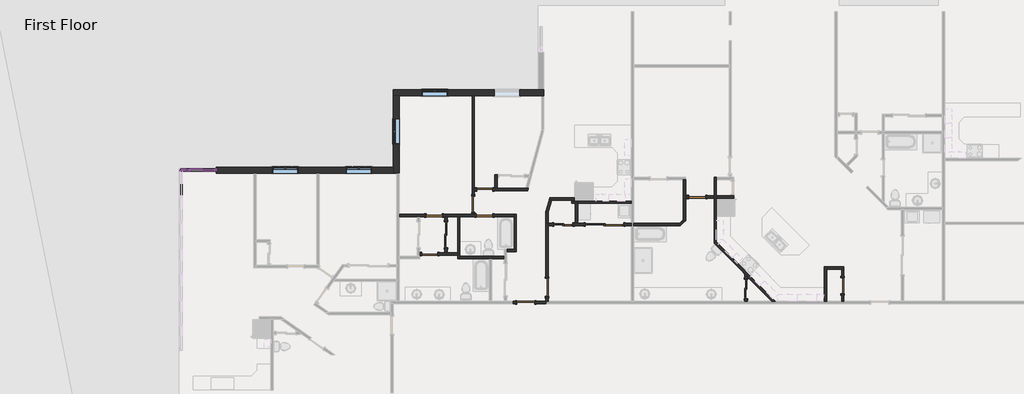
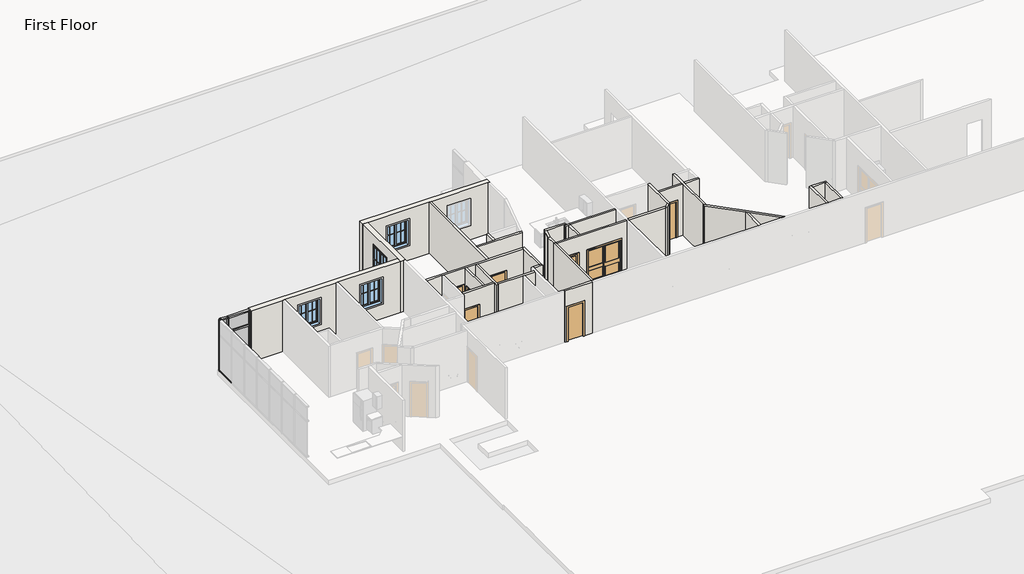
# One storey, part 8 of 17: 33 walls, 15 members, 13 doors, 4 plates, 4 windows.
"""IFC4 building model written with IfcOpenShell, lengths in millimetres."""

from ifc_helpers import new_model, si_unit, frame, origin, origin_with_axes, place, context, project, spatial, polyline, outline, extrude, faceted_brep, transform, mapped, element, save
from components import door_d8f5dbb5, door_f2b275c1, door_d141acb4, door_825b8444, door_c29894e6, door_88c23cd7, door_900f836f, door_caaf2a11, rectangular_mullion_rectangular_mullion_1_fa3625a1, rectangular_mullion_rectangular_mullion_1_7cbf0b94, rectangular_mullion_rectangular_mullion_1_6186cc23, rectangular_mullion_rectangular_mullion_1_049a2e78, rectangular_mullion_rectangular_mullion_1_a50b3cda, rectangular_mullion_rectangular_mullion_1_5cd4c5ac, rectangular_mullion_rectangular_mullion_1_64aff199, rectangular_mullion_rectangular_mullion_1_b6c962ab, system_panel_glazed_0ed27d1d, system_panel_glazed_134bacdb, system_panel_glazed_a3383988, system_panel_glazed_d9a092fd, window_33528cc2

model = new_model("IFC4")

# Units and contexts
model_context = context("Model", 3, world=origin())
ifc_project = project(units=[si_unit("LENGTHUNIT", "METRE", prefix="MILLI")], contexts=[model_context])

# Site, building, storey
site = spatial("IfcSite", under=ifc_project)
building = spatial("IfcBuilding", under=site)
storey = spatial("IfcBuildingStorey", under=building, Name="First Floor", Elevation=0.0)

# Doors
placement = place(None, origin())
door_shape = door_d8f5dbb5(model_context)
element("IfcDoor", 1, ObjectType="Single-Flush : 30\" x 80\"", at=placement, inside=storey, context=model_context, shape_type="MappedRepresentation", body=[
    mapped(door_shape, transform((12409.9063982, 4588.2091714, 0.0), x_axis=(-1.0, 0.0, 0.0), y_axis=(0.0, -1.0, 0.0), z_axis=(0.0, 0.0, 1.0))),
])
element("IfcDoor", 2, ObjectType="Single-Flush : 30\" x 80\"", at=placement, inside=storey, context=model_context, shape_type="MappedRepresentation", body=[
    mapped(door_shape, transform((31977.0076897, 3089.6091714, 0.0), x_axis=(0.0, -1.0, 0.0), y_axis=(1.0, 0.0, 0.0), z_axis=(0.0, 0.0, 1.0))),
])
door_2_shape = door_f2b275c1(model_context)
element("IfcDoor", 3, ObjectType="Single-Flush : 30\" x 80\"", at=placement, inside=storey, context=model_context, shape_type="MappedRepresentation", body=[
    mapped(door_2_shape, transform((15004.9379006, 7654.5108545, 0.0), x_axis=(-1.0, 0.0, 0.0), y_axis=(0.0, -1.0, 0.0), z_axis=(0.0, 0.0, 1.0))),
])
element("IfcDoor", 4, ObjectType="Single-Flush : 30\" x 80\"", at=placement, inside=storey, context=model_context, shape_type="MappedRepresentation", body=[
    mapped(door_2_shape, transform((14468.0674417, 6956.8936958, 0.0), x_axis=(0.0, -1.0, 0.0), y_axis=(1.0, 0.0, 0.0), z_axis=(0.0, 0.0, 1.0))),
])
element("IfcDoor", 5, ObjectType="Single-Flush : 30\" x 80\"", at=placement, inside=storey, context=model_context, shape_type="MappedRepresentation", body=[
    mapped(door_2_shape, transform((12612.1535557, 6423.4936958, 0.0), x_axis=(1.0, 0.0, 0.0), y_axis=(0.0, 1.0, 0.0), z_axis=(0.0, 0.0, 1.0))),
])
element("IfcDoor", 6, ObjectType="Single-Flush : 30\" x 80\"", at=placement, inside=storey, context=model_context, shape_type="MappedRepresentation", body=[
    mapped(door_2_shape, transform((15001.4674417, 6423.4936958, 0.0), x_axis=(1.0, 0.0, 0.0), y_axis=(0.0, 1.0, 0.0), z_axis=(0.0, 0.0, 1.0))),
])
door_3_shape = door_d141acb4(model_context)
element("IfcDoor", 7, ObjectType="Single-Flush : 32\" x 84\"", at=placement, inside=storey, context=model_context, shape_type="MappedRepresentation", body=[
    mapped(door_3_shape, transform((25078.7830518, 7300.7074244, 0.0), x_axis=(-1.0, 0.0, 0.0), y_axis=(0.0, -1.0, 0.0), z_axis=(0.0, 0.0, 1.0))),
])
door_4_shape = door_825b8444(model_context)
element("IfcDoor", 8, ObjectType="Single-Flush : 34\" x 80\"", at=placement, inside=storey, context=model_context, shape_type="MappedRepresentation", body=[
    mapped(door_4_shape, transform((16954.6993195, 2302.2091714, 0.0), x_axis=(-1.0, 0.0, 0.0), y_axis=(0.0, -1.0, 0.0), z_axis=(0.0, 0.0, 1.0))),
])
door_5_shape = door_c29894e6(model_context)
element("IfcDoor", 9, ObjectType="Single-Flush : 34\" x 80\"", at=placement, inside=storey, context=model_context, shape_type="MappedRepresentation", body=[
    mapped(door_5_shape, transform((17970.6993195, 3013.4091714, 0.0), x_axis=(0.0, -1.0, 0.0), y_axis=(1.0, 0.0, 0.0), z_axis=(0.0, 0.0, 1.0))),
])
door_6_shape = door_88c23cd7(model_context)
element("IfcDoor", 10, ObjectType="Sliding-Closet : 36\" x 80\"", at=placement, inside=storey, context=model_context, shape_type="MappedRepresentation", body=[
    mapped(door_6_shape, transform((18737.6267988, 6113.0380642, 0.0), x_axis=(-1.0, 0.0, 0.0), y_axis=(0.0, -1.0, 0.0), z_axis=(0.0, 0.0, 1.0))),
])
element("IfcDoor", 11, ObjectType="Sliding-Closet : 36\" x 80\"", at=placement, inside=storey, context=model_context, shape_type="MappedRepresentation", body=[
    mapped(door_6_shape, transform((27511.15388, 2937.2091714, 0.0), x_axis=(0.0, 1.0, 0.0), y_axis=(-1.0, 0.0, 0.0), z_axis=(0.0, 0.0, 1.0))),
])
door_7_shape = door_900f836f(model_context)
element("IfcDoor", 12, ObjectType="Sliding-Closet : 48\" x 80\"", at=placement, inside=storey, context=model_context, shape_type="MappedRepresentation", body=[
    mapped(door_7_shape, transform((13297.9535557, 5505.8514336, 0.0), x_axis=(0.0, 1.0, 0.0), y_axis=(-1.0, 0.0, 0.0), z_axis=(0.0, 0.0, 1.0))),
])
door_8_shape = door_caaf2a11(model_context)
element("IfcDoor", 13, ObjectType="Sliding-Closet : 72\" x 80\"", at=placement, inside=storey, context=model_context, shape_type="MappedRepresentation", body=[
    mapped(door_8_shape, transform((20687.6058176, 6113.0380642, 0.0), x_axis=(-1.0, 0.0, 0.0), y_axis=(0.0, -1.0, 0.0), z_axis=(0.0, 0.0, 1.0))),
])

# Members
rectangular_mullion_rectangular_mullion_1_shape = rectangular_mullion_rectangular_mullion_1_fa3625a1(model_context)
element("IfcMember", 14, ObjectType="Rectangular Mullion : Rectangular Mullion 1", at=placement, inside=storey, context=model_context, shape_type="MappedRepresentation", body=[
    mapped(rectangular_mullion_rectangular_mullion_1_shape, transform((1069.5831156, 8571.3427849, 3048.0), x_axis=(0.0, 0.0, 1.0), y_axis=(0.0, 1.0, 0.0), z_axis=(-1.0, 0.0, 0.0))),
])
element("IfcMember", 15, ObjectType="Rectangular Mullion : Rectangular Mullion 1", at=placement, inside=storey, context=model_context, shape_type="MappedRepresentation", body=[
    mapped(rectangular_mullion_rectangular_mullion_1_shape, transform((2225.2831159, 8571.3427849, 0.0), x_axis=(0.0, 0.0, -1.0), y_axis=(0.0, 1.0, 0.0), z_axis=(1.0, 0.0, 0.0))),
])
element("IfcMember", 16, ObjectType="Rectangular Mullion : Rectangular Mullion 1", at=placement, inside=storey, context=model_context, shape_type="MappedRepresentation", body=[
    mapped(rectangular_mullion_rectangular_mullion_1_shape, transform((612.3831159, 8507.8427849, 0.0), x_axis=(0.0, 0.0, -1.0), y_axis=(-1.0, 0.0, 0.0), z_axis=(0.0, 1.0, 0.0))),
])
rectangular_mullion_rectangular_mullion_1_2_shape = rectangular_mullion_rectangular_mullion_1_7cbf0b94(model_context)
element("IfcMember", 17, ObjectType="Rectangular Mullion : Rectangular Mullion 1", at=placement, inside=storey, context=model_context, shape_type="MappedRepresentation", body=[
    mapped(rectangular_mullion_rectangular_mullion_1_2_shape, transform((1069.5831156, 8571.3427849, 2165.35), x_axis=(0.0, 0.0, 1.0), y_axis=(0.0, 1.0, 0.0), z_axis=(-1.0, 0.0, 0.0))),
])
rectangular_mullion_rectangular_mullion_1_3_shape = rectangular_mullion_rectangular_mullion_1_6186cc23(model_context)
element("IfcMember", 18, ObjectType="Rectangular Mullion : Rectangular Mullion 1", at=placement, inside=storey, context=model_context, shape_type="MappedRepresentation", body=[
    mapped(rectangular_mullion_rectangular_mullion_1_3_shape, transform((1037.8331156, 8571.3427849, 0.0), x_axis=(-1.0, 0.0, 0.0), y_axis=(0.0, 1.0, 0.0), z_axis=(0.0, 0.0, -1.0))),
])
rectangular_mullion_rectangular_mullion_1_4_shape = rectangular_mullion_rectangular_mullion_1_049a2e78(model_context)
element("IfcMember", 19, ObjectType="Rectangular Mullion : Rectangular Mullion 1", at=placement, inside=storey, context=model_context, shape_type="MappedRepresentation", body=[
    mapped(rectangular_mullion_rectangular_mullion_1_4_shape, transform((1037.8331156, 8571.3427849, 2165.35), x_axis=(-1.0, 0.0, 0.0), y_axis=(0.0, 1.0, 0.0), z_axis=(0.0, 0.0, -1.0))),
])
rectangular_mullion_rectangular_mullion_1_5_shape = rectangular_mullion_rectangular_mullion_1_a50b3cda(model_context)
element("IfcMember", 20, ObjectType="Rectangular Mullion : Rectangular Mullion 1", at=placement, inside=storey, context=model_context, shape_type="MappedRepresentation", body=[
    mapped(rectangular_mullion_rectangular_mullion_1_5_shape, transform((612.3831159, 8571.3427849, 0.0), x_axis=(-1.0, 0.0, 0.0), y_axis=(0.0, 1.0, 0.0), z_axis=(0.0, 0.0, -1.0))),
])
rectangular_mullion_rectangular_mullion_1_6_shape = rectangular_mullion_rectangular_mullion_1_5cd4c5ac(model_context)
element("IfcMember", 21, ObjectType="Rectangular Mullion : Rectangular Mullion 1", at=placement, inside=storey, context=model_context, shape_type="MappedRepresentation", body=[
    mapped(rectangular_mullion_rectangular_mullion_1_6_shape, transform((612.3831159, 8571.3427849, 2165.35), x_axis=(-1.0, 0.0, 0.0), y_axis=(0.0, 1.0, 0.0), z_axis=(0.0, 0.0, -1.0))),
])
element("IfcMember", 22, ObjectType="Rectangular Mullion : Rectangular Mullion 1", at=placement, inside=storey, context=model_context, shape_type="MappedRepresentation", body=[
    mapped(rectangular_mullion_rectangular_mullion_1_6_shape, transform((2288.7831159, 8571.3427849, 3048.0), x_axis=(1.0, 0.0, 0.0), y_axis=(0.0, 1.0, 0.0), z_axis=(0.0, 0.0, 1.0))),
])
element("IfcMember", 23, ObjectType="Rectangular Mullion : Rectangular Mullion 1", at=placement, inside=storey, context=model_context, shape_type="MappedRepresentation", body=[
    mapped(rectangular_mullion_rectangular_mullion_1_6_shape, transform((612.3831159, 8571.3427849, 3048.0), x_axis=(0.0, 1.0, 0.0), y_axis=(-1.0, 0.0, 0.0), z_axis=(0.0, 0.0, 1.0))),
])
element("IfcMember", 24, ObjectType="Rectangular Mullion : Rectangular Mullion 1", at=placement, inside=storey, context=model_context, shape_type="MappedRepresentation", body=[
    mapped(rectangular_mullion_rectangular_mullion_1_5_shape, transform((2288.7831159, 8571.3427849, 2165.35), x_axis=(1.0, 0.0, 0.0), y_axis=(0.0, 1.0, 0.0), z_axis=(0.0, 0.0, 1.0))),
])
element("IfcMember", 25, ObjectType="Rectangular Mullion : Rectangular Mullion 1", at=placement, inside=storey, context=model_context, shape_type="MappedRepresentation", body=[
    mapped(rectangular_mullion_rectangular_mullion_1_5_shape, transform((612.3831159, 8571.3427849, 2165.35), x_axis=(0.0, 1.0, 0.0), y_axis=(-1.0, 0.0, 0.0), z_axis=(0.0, 0.0, 1.0))),
])
rectangular_mullion_rectangular_mullion_1_7_shape = rectangular_mullion_rectangular_mullion_1_64aff199(model_context)
element("IfcMember", 26, ObjectType="Rectangular Mullion : Rectangular Mullion 1", at=placement, inside=storey, context=model_context, shape_type="MappedRepresentation", body=[
    mapped(rectangular_mullion_rectangular_mullion_1_7_shape, transform((675.8831159, 8571.3427849, 3048.0), x_axis=(0.0, 0.0, 1.0), y_axis=(0.0, 1.0, 0.0), z_axis=(-1.0, 0.0, 0.0))),
])
element("IfcMember", 27, ObjectType="Rectangular Mullion : Rectangular Mullion 1", at=placement, inside=storey, context=model_context, shape_type="MappedRepresentation", body=[
    mapped(rectangular_mullion_rectangular_mullion_1_7_shape, transform((1006.0831156, 8571.3427849, 0.0), x_axis=(0.0, 0.0, -1.0), y_axis=(0.0, 1.0, 0.0), z_axis=(1.0, 0.0, 0.0))),
])
rectangular_mullion_rectangular_mullion_1_8_shape = rectangular_mullion_rectangular_mullion_1_b6c962ab(model_context)
element("IfcMember", 28, ObjectType="Rectangular Mullion : Rectangular Mullion 1", at=placement, inside=storey, context=model_context, shape_type="MappedRepresentation", body=[
    mapped(rectangular_mullion_rectangular_mullion_1_8_shape, transform((675.8831159, 8571.3427849, 2165.35), x_axis=(0.0, 0.0, 1.0), y_axis=(0.0, 1.0, 0.0), z_axis=(-1.0, 0.0, 0.0))),
])

# Plates
system_panel_glazed_shape = system_panel_glazed_0ed27d1d(model_context)
element("IfcPlate", 29, ObjectType="System Panel : Glazed", at=placement, inside=storey, context=model_context, shape_type="MappedRepresentation", body=[
    mapped(system_panel_glazed_shape, transform((1647.4331158, 8571.3427849, 63.5), x_axis=(-1.0, 0.0, 0.0), y_axis=(0.0, -1.0, 0.0), z_axis=(0.0, 0.0, 1.0))),
])
system_panel_glazed_2_shape = system_panel_glazed_134bacdb(model_context)
element("IfcPlate", 30, ObjectType="System Panel : Glazed", at=placement, inside=storey, context=model_context, shape_type="MappedRepresentation", body=[
    mapped(system_panel_glazed_2_shape, transform((1647.4331158, 8571.3427849, 2197.1), x_axis=(-1.0, 0.0, 0.0), y_axis=(0.0, -1.0, 0.0), z_axis=(0.0, 0.0, 1.0))),
])
system_panel_glazed_3_shape = system_panel_glazed_a3383988(model_context)
element("IfcPlate", 31, ObjectType="System Panel : Glazed", at=placement, inside=storey, context=model_context, shape_type="MappedRepresentation", body=[
    mapped(system_panel_glazed_3_shape, transform((840.9831158, 8571.3427849, 63.5), x_axis=(-1.0, 0.0, 0.0), y_axis=(0.0, -1.0, 0.0), z_axis=(0.0, 0.0, 1.0))),
])
system_panel_glazed_4_shape = system_panel_glazed_d9a092fd(model_context)
element("IfcPlate", 32, ObjectType="System Panel : Glazed", at=placement, inside=storey, context=model_context, shape_type="MappedRepresentation", body=[
    mapped(system_panel_glazed_4_shape, transform((840.9831158, 8571.3427849, 2197.1), x_axis=(-1.0, 0.0, 0.0), y_axis=(0.0, -1.0, 0.0), z_axis=(0.0, 0.0, 1.0))),
])

# Walls
element("IfcWall", 33, ObjectType="Exterior - Brick on Wood Stud", at=placement, inside=storey, context=model_context, shape_type="Brep", body=[
    faceted_brep([(17820.1121608, 12370.2302849, 0.0), (17537.5371608, 12370.2302849, 0.0), (10681.8956159, 12370.2302849, 0.0), (10681.8956159, 12370.2302849, 3048.0), (17537.5371608, 12370.2302849, 3048.0), (17820.1121608, 12370.2302849, 3048.0), (13255.2252788, 12370.2302849, 2438.4), (12036.0252788, 12370.2302849, 2438.4), (12036.0252788, 12370.2302849, 914.4), (13255.2252788, 12370.2302849, 914.4), (16683.0460512, 12370.2302849, 2438.4), (15463.8460512, 12370.2302849, 2438.4), (15463.8460512, 12370.2302849, 914.4), (16683.0460512, 12370.2302849, 914.4), (17820.1121608, 12087.6552849, 0.0), (17820.1121608, 12087.6552849, 3048.0), (17705.8121608, 12087.6552849, 3048.0), (14525.2174417, 12087.6552849, 3048.0), (14410.9174417, 12087.6552849, 3048.0), (10964.4706159, 12087.6552849, 3048.0), (10681.8956159, 12087.6552849, 3048.0), (10681.8956159, 12087.6552849, 0.0), (10964.4706159, 12087.6552849, 0.0), (14410.9174417, 12087.6552849, 0.0), (14525.2174417, 12087.6552849, 0.0), (17705.8121608, 12087.6552849, 0.0), (13255.2252788, 12087.6552849, 2438.4), (13255.2252788, 12087.6552849, 914.4), (12036.0252788, 12087.6552849, 914.4), (12036.0252788, 12087.6552849, 2438.4), (16683.0460512, 12087.6552849, 2438.4), (16683.0460512, 12087.6552849, 914.4), (15463.8460512, 12087.6552849, 914.4), (15463.8460512, 12087.6552849, 2438.4)], [[[0, 1, 2, 3, 4, 5], [6, 7, 8, 9], [10, 11, 12, 13]], [[14, 15, 16, 17, 18, 19, 20, 21, 22, 23, 24, 25], [26, 27, 28, 29], [30, 31, 32, 33]], [[2, 1, 0, 14, 25, 24, 23, 22, 21]], [[5, 4, 3, 20, 19, 18, 17, 16, 15]], [[27, 26, 6, 9]], [[28, 27, 9, 8]], [[29, 28, 8, 7]], [[26, 29, 7, 6]], [[31, 30, 10, 13]], [[32, 31, 13, 12]], [[33, 32, 12, 11]], [[30, 33, 11, 10]], [[0, 5, 15, 14]], [[3, 2, 21, 20]]]),
])
element("IfcWall", 34, ObjectType="Exterior - Brick on Wood Stud", at=placement, inside=storey, context=model_context, shape_type="Brep", body=[
    faceted_brep([(10681.8956159, 12087.6552849, 0.0), (10681.8956159, 8712.6302849, 0.0), (10681.8956159, 8430.0552849, 0.0), (10681.8956159, 8430.0552849, 3048.0), (10681.8956159, 8712.6302849, 3048.0), (10681.8956159, 12087.6552849, 3048.0), (10681.8956159, 11009.7427849, 2438.4), (10681.8956159, 9790.5427849, 2438.4), (10681.8956159, 9790.5427849, 914.4), (10681.8956159, 11009.7427849, 914.4), (10964.4706159, 12087.6552849, 0.0), (10964.4706159, 12087.6552849, 3048.0), (10964.4706159, 8430.0552849, 3048.0), (10964.4706159, 8430.0552849, 0.0), (10964.4706159, 11009.7427849, 2438.4), (10964.4706159, 11009.7427849, 914.4), (10964.4706159, 9790.5427849, 914.4), (10964.4706159, 9790.5427849, 2438.4), (10850.1706159, 8430.0552849, 0.0), (10850.1706159, 8430.0552849, 3048.0)], [[[0, 1, 2, 3, 4, 5], [6, 7, 8, 9]], [[10, 11, 12, 13], [14, 15, 16, 17]], [[2, 1, 0, 10, 13, 18]], [[5, 4, 3, 19, 12, 11]], [[15, 14, 6, 9]], [[16, 15, 9, 8]], [[17, 16, 8, 7]], [[14, 17, 7, 6]], [[3, 2, 18, 13, 12, 19]], [[0, 5, 11, 10]]]),
])
element("IfcWall", 35, ObjectType="Exterior - Brick on Wood Stud", at=placement, inside=storey, context=model_context, shape_type="Brep", body=[
    faceted_brep([(10681.8956159, 8712.6302849, 0.0), (2288.7831159, 8712.6302849, 0.0), (2288.7831159, 8712.6302849, 3048.0), (10681.8956159, 8712.6302849, 3048.0), (6168.7897364, 8712.6302849, 2438.4), (4949.5897364, 8712.6302849, 2438.4), (4949.5897364, 8712.6302849, 914.4), (6168.7897364, 8712.6302849, 914.4), (9654.7831159, 8712.6302849, 2438.4), (8435.5831159, 8712.6302849, 2438.4), (8435.5831159, 8712.6302849, 914.4), (9654.7831159, 8712.6302849, 914.4), (10681.8956159, 8430.0552849, 0.0), (10681.8956159, 8430.0552849, 3048.0), (7160.5967971, 8430.0552849, 3048.0), (7046.2967971, 8430.0552849, 3048.0), (4173.6826756, 8430.0552849, 3048.0), (4059.3826756, 8430.0552849, 3048.0), (2288.7831159, 8430.0552849, 3048.0), (2288.7831159, 8430.0552849, 0.0), (4059.3826756, 8430.0552849, 0.0), (4173.6826756, 8430.0552849, 0.0), (7046.2967971, 8430.0552849, 0.0), (7160.5967971, 8430.0552849, 0.0), (6168.7897364, 8430.0552849, 2438.4), (6168.7897364, 8430.0552849, 914.4), (4949.5897364, 8430.0552849, 914.4), (4949.5897364, 8430.0552849, 2438.4), (9654.7831159, 8430.0552849, 2438.4), (9654.7831159, 8430.0552849, 914.4), (8435.5831159, 8430.0552849, 914.4), (8435.5831159, 8430.0552849, 2438.4)], [[[0, 1, 2, 3], [4, 5, 6, 7], [8, 9, 10, 11]], [[12, 13, 14, 15, 16, 17, 18, 19, 20, 21, 22, 23], [24, 25, 26, 27], [28, 29, 30, 31]], [[1, 0, 12, 23, 22, 21, 20, 19]], [[2, 1, 19, 18]], [[3, 2, 18, 17, 16, 15, 14, 13]], [[25, 24, 4, 7]], [[26, 25, 7, 6]], [[27, 26, 6, 5]], [[24, 27, 5, 4]], [[29, 28, 8, 11]], [[30, 29, 11, 10]], [[31, 30, 10, 9]], [[28, 31, 9, 8]], [[0, 3, 13, 12]]]),
])
element("IfcWall", 36, ObjectType="Interior - 4 1/2\" Partition", at=placement, inside=storey, context=model_context, shape_type="Brep", body=[
    faceted_brep([(25879.20388, 5101.9499009, 0.0), (27327.00388, 3654.1499009, 0.0), (27441.30388, 3539.8499009, 0.0), (28621.7946095, 2359.3591714, 0.0), (28621.7946095, 2359.3591714, 3048.0), (27441.30388, 3539.8499009, 3048.0), (27327.00388, 3654.1499009, 3048.0), (25879.20388, 5101.9499009, 3048.0), (25879.20388, 5263.5945111, 0.0), (25879.20388, 5263.5945111, 3048.0), (25993.50388, 5149.2945111, 3048.0), (28783.4392197, 2359.3591714, 3048.0), (28783.4392197, 2359.3591714, 0.0), (25993.50388, 5149.2945111, 0.0)], [[[0, 1, 2, 3, 4, 5, 6, 7]], [[8, 9, 10, 11, 12, 13]], [[3, 2, 1, 0, 8, 13, 12]], [[7, 6, 5, 4, 11, 10, 9]], [[0, 7, 9, 8]], [[4, 3, 12, 11]]]),
])
element("IfcWall", 37, ObjectType="Interior - 4 1/2\" Partition", at=placement, inside=storey, context=model_context, shape_type="Brep", body=[
    faceted_brep([(25879.20388, 8225.156996, 0.0), (25879.20388, 7357.8574244, 0.0), (25879.20388, 7243.5574244, 0.0), (25879.20388, 5263.5945111, 0.0), (25879.20388, 5263.5945111, 3048.0), (25879.20388, 7243.5574244, 3048.0), (25879.20388, 7357.8574244, 3048.0), (25879.20388, 8225.156996, 3048.0), (25993.50388, 8225.156996, 0.0), (25993.50388, 8225.156996, 3048.0), (25993.50388, 8110.856996, 3048.0), (25993.50388, 7357.8574244, 3048.0), (25993.50388, 7243.5574244, 3048.0), (25993.50388, 5149.2945111, 3048.0), (25993.50388, 5149.2945111, 0.0), (25993.50388, 7243.5574244, 0.0), (25993.50388, 7357.8574244, 0.0), (25993.50388, 8110.856996, 0.0)], [[[0, 1, 2, 3, 4, 5, 6, 7]], [[8, 9, 10, 11, 12, 13, 14, 15, 16, 17]], [[3, 2, 1, 0, 8, 17, 16, 15, 14]], [[7, 6, 5, 4, 13, 12, 11, 10, 9]], [[0, 7, 9, 8]], [[4, 3, 14, 13]]]),
])
element("IfcWall", 38, ObjectType="Interior - 4 1/2\" Partition", at=placement, inside=storey, context=model_context, shape_type="Brep", body=[
    faceted_brep([(24672.3830518, 7243.5574244, 0.0), (24672.3830518, 7243.5574244, 2133.6), (25485.1830518, 7243.5574244, 2133.6), (25485.1830518, 7243.5574244, 0.0), (25879.20388, 7243.5574244, 0.0), (25879.20388, 7243.5574244, 3048.0), (24526.3330518, 7243.5574244, 3048.0), (24526.3330518, 7243.5574244, 0.0), (24672.3830518, 7357.8574244, 2133.6), (24672.3830518, 7357.8574244, 0.0), (24526.3330518, 7357.8574244, 0.0), (24526.3330518, 7357.8574244, 3048.0), (25879.20388, 7357.8574244, 3048.0), (25879.20388, 7357.8574244, 0.0), (25485.1830518, 7357.8574244, 0.0), (25485.1830518, 7357.8574244, 2133.6)], [[[0, 1, 2, 3, 4, 5, 6, 7]], [[8, 9, 10, 11, 12, 13, 14, 15]], [[9, 0, 7, 10]], [[3, 14, 13, 4]], [[11, 6, 5, 12]], [[1, 0, 9, 8]], [[2, 1, 8, 15]], [[3, 2, 15, 14]], [[7, 6, 11, 10]], [[5, 4, 13, 12]]]),
    faceted_brep([(26802.630585, 7243.5574244, 0.0), (26802.630585, 7243.5574244, 3048.0), (25993.50388, 7243.5574244, 3048.0), (25993.50388, 7243.5574244, 0.0), (26802.630585, 7357.8574244, 3048.0), (26802.630585, 7357.8574244, 0.0), (26688.330585, 7357.8574244, 0.0), (25993.50388, 7357.8574244, 0.0), (25993.50388, 7357.8574244, 3048.0), (26688.330585, 7357.8574244, 3048.0)], [[[0, 1, 2, 3]], [[4, 5, 6, 7, 8, 9]], [[5, 0, 3, 7, 6]], [[1, 4, 9, 8, 2]], [[1, 0, 5, 4]], [[3, 2, 8, 7]]]),
])
element("IfcWall", 39, ObjectType="Interior - 4 1/2\" Partition", at=placement, inside=storey, context=model_context, shape_type="Brep", body=[
    faceted_brep([(24412.0330518, 8110.856996, 0.0), (24412.0330518, 6225.2365161, 0.0), (24412.0330518, 6063.591906, 0.0), (24412.0330518, 6063.591906, 3048.0), (24412.0330518, 6225.2365161, 3048.0), (24412.0330518, 8110.856996, 3048.0), (24526.3330518, 8110.856996, 0.0), (24526.3330518, 8110.856996, 3048.0), (24526.3330518, 7357.8574244, 3048.0), (24526.3330518, 7243.5574244, 3048.0), (24526.3330518, 6177.891906, 3048.0), (24526.3330518, 6177.891906, 0.0), (24526.3330518, 7243.5574244, 0.0), (24526.3330518, 7357.8574244, 0.0)], [[[0, 1, 2, 3, 4, 5]], [[6, 7, 8, 9, 10, 11, 12, 13]], [[2, 1, 0, 6, 13, 12, 11]], [[5, 4, 3, 10, 9, 8, 7]], [[3, 2, 11, 10]], [[0, 5, 7, 6]]]),
])
element("IfcWall", 40, ObjectType="Interior - 4 1/2\" Partition", at=placement, inside=storey, context=model_context, shape_type="Brep", body=[
    faceted_brep([(24412.0330518, 6225.2365161, 0.0), (24229.9845998, 6043.1880642, 0.0), (24115.6845998, 5928.8880642, 0.0), (24115.6845998, 5928.8880642, 3048.0), (24229.9845998, 6043.1880642, 3048.0), (24412.0330518, 6225.2365161, 3048.0), (24412.0330518, 6063.591906, 0.0), (24412.0330518, 6063.591906, 3048.0), (24277.3292099, 5928.8880642, 3048.0), (24277.3292099, 5928.8880642, 0.0)], [[[0, 1, 2, 3, 4, 5]], [[6, 7, 8, 9]], [[2, 1, 0, 6, 9]], [[5, 4, 3, 8, 7]], [[3, 2, 9, 8]], [[0, 5, 7, 6]]]),
])
element("IfcWall", 41, ObjectType="Interior - 4 1/2\" Partition", at=placement, inside=storey, context=model_context, shape_type="SweptSolid", body=[
    extrude(outline(polyline([(22080.2073571, 6043.1880642), (24229.9845998, 6043.1880642), (24115.6845998, 5928.8880642), (22080.2073571, 5928.8880642), (22080.2073571, 6043.1880642)])), origin_with_axes(), (0.0, 0.0, 1.0), 3048.0),
])
element("IfcWall", 42, ObjectType="Interior - 4 1/2\" Partition", at=placement, inside=storey, context=model_context, shape_type="Brep", body=[
    faceted_brep([(31221.3576897, 2359.3591714, 0.0), (31221.3576897, 3878.5301459, 0.0), (31221.3576897, 3992.8301459, 0.0), (31221.3576897, 3992.8301459, 3048.0), (31221.3576897, 3878.5301459, 3048.0), (31221.3576897, 2359.3591714, 3048.0), (31107.0576897, 2359.3591714, 0.0), (31107.0576897, 2359.3591714, 3048.0), (31107.0576897, 3992.8301459, 3048.0), (31107.0576897, 3992.8301459, 0.0)], [[[0, 1, 2, 3, 4, 5]], [[6, 7, 8, 9]], [[2, 1, 0, 6, 9]], [[5, 4, 3, 8, 7]], [[3, 2, 9, 8]], [[0, 5, 7, 6]]]),
])
element("IfcWall", 43, ObjectType="Interior - 4 1/2\" Partition", at=placement, inside=storey, context=model_context, shape_type="Brep", body=[
    faceted_brep([(31221.3576897, 3878.5301459, 0.0), (31919.8576897, 3878.5301459, 0.0), (32034.1576897, 3878.5301459, 0.0), (32034.1576897, 3878.5301459, 3048.0), (31919.8576897, 3878.5301459, 3048.0), (31221.3576897, 3878.5301459, 3048.0), (31221.3576897, 3992.8301459, 0.0), (31221.3576897, 3992.8301459, 3048.0), (32034.1576897, 3992.8301459, 3048.0), (32034.1576897, 3992.8301459, 0.0)], [[[0, 1, 2, 3, 4, 5]], [[6, 7, 8, 9]], [[2, 1, 0, 6, 9]], [[5, 4, 3, 8, 7]], [[3, 2, 9, 8]], [[0, 5, 7, 6]]]),
])
element("IfcWall", 44, ObjectType="Interior - 4 1/2\" Partition", at=placement, inside=storey, context=model_context, shape_type="SweptSolid", body=[
    extrude(outline(polyline([(2708.6091714, 2032.0), (2708.6091714, 0.0), (2359.3591714, 0.0), (2359.3591714, 3048.0), (3878.5301459, 3048.0), (3878.5301459, 0.0), (3470.6091714, 0.0), (3470.6091714, 2032.0), (2708.6091714, 2032.0)])), frame((31919.8576897, 0.0, 0.0), z_axis=(1.0, 0.0, 0.0), x_axis=(0.0, 1.0, 0.0)), (0.0, 0.0, 1.0), 114.3),
])
element("IfcWall", 45, ObjectType="Interior - 4 1/2\" Partition", at=placement, inside=storey, context=model_context, shape_type="Brep", body=[
    faceted_brep([(18027.8493195, 2359.3591714, 0.0), (18027.8493195, 2581.6091714, 0.0), (18027.8493195, 2581.6091714, 2032.0), (18027.8493195, 3445.2091714, 2032.0), (18027.8493195, 3445.2091714, 0.0), (18027.8493195, 5928.8880642, 0.0), (18027.8493195, 6043.1880642, 0.0), (18027.8493195, 6043.1880642, 3048.0), (18027.8493195, 5928.8880642, 3048.0), (18027.8493195, 2359.3591714, 3048.0), (17913.5493195, 2581.6091714, 2032.0), (17913.5493195, 2581.6091714, 0.0), (17913.5493195, 2359.3591714, 0.0), (17913.5493195, 2359.3591714, 3048.0), (17913.5493195, 6043.1880642, 3048.0), (17913.5493195, 6043.1880642, 0.0), (17913.5493195, 3445.2091714, 0.0), (17913.5493195, 3445.2091714, 2032.0)], [[[0, 1, 2, 3, 4, 5, 6, 7, 8, 9]], [[10, 11, 12, 13, 14, 15, 16, 17]], [[16, 15, 6, 5, 4]], [[12, 11, 1, 0]], [[9, 8, 7, 14, 13]], [[2, 1, 11, 10]], [[3, 2, 10, 17]], [[4, 3, 17, 16]], [[7, 6, 15, 14]], [[0, 9, 13, 12]]]),
])
element("IfcWall", 46, ObjectType="Interior - 4 1/2\" Partition", at=placement, inside=storey, context=model_context, shape_type="SweptSolid", body=[
    extrude(outline(polyline([(0.0, 16345.0993195), (0.0, 16522.8993195), (2032.0, 16522.8993195), (2032.0, 17386.4993195), (0.0, 17386.4993195), (0.0, 17913.5493195), (3048.0, 17913.5493195), (3048.0, 16345.0993195), (0.0, 16345.0993195)])), frame((0.0, 2245.0591714, 0.0), z_axis=(0.0, 1.0, 0.0), x_axis=(0.0, 0.0, 1.0)), (0.0, 0.0, 1.0), 114.3),
])
element("IfcWall", 47, ObjectType="Interior - 4 1/2\" Partition", at=placement, inside=storey, context=model_context, shape_type="Brep", body=[
    faceted_brep([(18027.8493195, 5928.8880642, 0.0), (18280.4267988, 5928.8880642, 0.0), (18280.4267988, 5928.8880642, 2032.0), (19194.8267988, 5928.8880642, 2032.0), (19194.8267988, 5928.8880642, 0.0), (19773.2058176, 5928.8880642, 0.0), (19773.2058176, 5928.8880642, 2032.0), (21602.0058176, 5928.8880642, 2032.0), (21602.0058176, 5928.8880642, 0.0), (21965.9073571, 5928.8880642, 0.0), (21965.9073571, 5928.8880642, 3048.0), (18027.8493195, 5928.8880642, 3048.0), (18280.4267988, 6043.1880642, 2032.0), (18280.4267988, 6043.1880642, 0.0), (18027.8493195, 6043.1880642, 0.0), (18027.8493195, 6043.1880642, 3048.0), (19295.0042781, 6043.1880642, 3048.0), (19409.3042781, 6043.1880642, 3048.0), (21965.9073571, 6043.1880642, 3048.0), (21965.9073571, 6043.1880642, 0.0), (21602.0058176, 6043.1880642, 0.0), (21602.0058176, 6043.1880642, 2032.0), (19773.2058176, 6043.1880642, 2032.0), (19773.2058176, 6043.1880642, 0.0), (19409.3042781, 6043.1880642, 0.0), (19295.0042781, 6043.1880642, 0.0), (19194.8267988, 6043.1880642, 0.0), (19194.8267988, 6043.1880642, 2032.0)], [[[0, 1, 2, 3, 4, 5, 6, 7, 8, 9, 10, 11]], [[12, 13, 14, 15, 16, 17, 18, 19, 20, 21, 22, 23, 24, 25, 26, 27]], [[20, 19, 9, 8]], [[14, 13, 1, 0]], [[26, 25, 24, 23, 5, 4]], [[11, 10, 18, 17, 16, 15]], [[8, 7, 21, 20]], [[6, 5, 23, 22]], [[7, 6, 22, 21]], [[4, 3, 27, 26]], [[2, 1, 13, 12]], [[3, 2, 12, 27]], [[0, 11, 15, 14]], [[10, 9, 19, 18]]]),
])
element("IfcWall", 48, ObjectType="Interior - 4 1/2\" Partition", at=placement, inside=storey, context=model_context, shape_type="SweptSolid", body=[
    extrude(outline(polyline([(18027.8493195, 6586.3590874), (18027.8493195, 6043.1880642), (17913.5493195, 6043.1880642), (17913.5493195, 6601.4069679), (18027.8493195, 6586.3590874)])), origin_with_axes(), (0.0, 0.0, 1.0), 3048.0),
])
element("IfcWall", 49, ObjectType="Interior - 4 1/2\" Partition", at=placement, inside=storey, context=model_context, shape_type="Brep", body=[
    faceted_brep([(18059.0915565, 7144.5779911, 0.0), (18177.4236239, 7144.5779911, 0.0), (19142.6042781, 7144.5779911, 0.0), (19256.9042781, 7144.5779911, 0.0), (19256.9042781, 7144.5779911, 3048.0), (19142.6042781, 7144.5779911, 3048.0), (18177.4236239, 7144.5779911, 3048.0), (18059.0915565, 7144.5779911, 3048.0), (18089.7181492, 7258.8779911, 0.0), (18089.7181492, 7258.8779911, 3048.0), (19256.9042781, 7258.8779911, 3048.0), (19256.9042781, 7258.8779911, 0.0)], [[[0, 1, 2, 3, 4, 5, 6, 7]], [[8, 9, 10, 11]], [[3, 2, 1, 0, 8, 11]], [[7, 6, 5, 4, 10, 9]], [[0, 7, 9, 8]], [[4, 3, 11, 10]]]),
])
element("IfcWall", 50, ObjectType="Interior - 4 1/2\" Partition", at=placement, inside=storey, context=model_context, shape_type="SweptSolid", body=[
    extrude(outline(polyline([(19142.6042781, 7103.205075), (19142.6042781, 7144.5779911), (19256.9042781, 7144.5779911), (19256.9042781, 7103.205075), (19142.6042781, 7103.205075)])), origin_with_axes(), (0.0, 0.0, 1.0), 3048.0),
])
element("IfcWall", 51, ObjectType="Interior - 4 1/2\" Partition", at=placement, inside=storey, context=model_context, shape_type="Brep", body=[
    faceted_brep([(19142.6042781, 6988.905075, 0.0), (19295.0042781, 6988.905075, 0.0), (19409.3042781, 6988.905075, 0.0), (19409.3042781, 6988.905075, 3048.0), (19295.0042781, 6988.905075, 3048.0), (19142.6042781, 6988.905075, 3048.0), (19142.6042781, 7103.205075, 0.0), (19142.6042781, 7103.205075, 3048.0), (19256.9042781, 7103.205075, 3048.0), (19409.3042781, 7103.205075, 3048.0), (19409.3042781, 7103.205075, 0.0), (19256.9042781, 7103.205075, 0.0)], [[[0, 1, 2, 3, 4, 5]], [[6, 7, 8, 9, 10, 11]], [[2, 1, 0, 6, 11, 10]], [[5, 4, 3, 9, 8, 7]], [[0, 5, 7, 6]], [[3, 2, 10, 9]]]),
])
element("IfcWall", 52, ObjectType="Interior - 4 1/2\" Partition", at=placement, inside=storey, context=model_context, shape_type="SweptSolid", body=[
    extrude(outline(polyline([(19295.0042781, 6043.1880642), (19295.0042781, 6988.905075), (19409.3042781, 6988.905075), (19409.3042781, 6043.1880642), (19295.0042781, 6043.1880642)])), origin_with_axes(), (0.0, 0.0, 1.0), 3048.0),
])
element("IfcWall", 53, ObjectType="Interior - 4 1/2\" Partition", at=placement, inside=storey, context=model_context, shape_type="Brep", body=[
    faceted_brep([(13837.7035557, 4378.6591714, 0.0), (15221.1493195, 4378.6591714, 0.0), (15335.4493195, 4378.6591714, 0.0), (15932.3493195, 4378.6591714, 0.0), (15932.3493195, 4378.6591714, 3048.0), (15335.4493195, 4378.6591714, 3048.0), (15221.1493195, 4378.6591714, 3048.0), (13837.7035557, 4378.6591714, 3048.0), (13837.7035557, 4492.9591714, 0.0), (13837.7035557, 4492.9591714, 3048.0), (15932.3493195, 4492.9591714, 3048.0), (15932.3493195, 4492.9591714, 0.0)], [[[0, 1, 2, 3, 4, 5, 6, 7]], [[8, 9, 10, 11]], [[3, 2, 1, 0, 8, 11]], [[7, 6, 5, 4, 10, 9]], [[0, 7, 9, 8]], [[4, 3, 11, 10]]]),
])
element("IfcWall", 54, ObjectType="Interior - 4 1/2\" Partition", at=placement, inside=storey, context=model_context, shape_type="Brep", body=[
    faceted_brep([(16046.6493195, 4693.1366582, 0.0), (16513.3583594, 4693.1366582, 0.0), (16513.3583594, 4693.1366582, 3048.0), (16046.6493195, 4693.1366582, 3048.0), (16046.6493195, 4807.4366582, 0.0), (16046.6493195, 4807.4366582, 3048.0), (16399.0583594, 4807.4366582, 3048.0), (16513.3583594, 4807.4366582, 3048.0), (16513.3583594, 4807.4366582, 0.0), (16399.0583594, 4807.4366582, 0.0)], [[[0, 1, 2, 3]], [[4, 5, 6, 7, 8, 9]], [[1, 0, 4, 9, 8]], [[3, 2, 7, 6, 5]], [[2, 1, 8, 7]], [[0, 3, 5, 4]]]),
])
element("IfcWall", 55, ObjectType="Interior - 4 1/2\" Partition", at=placement, inside=storey, context=model_context, shape_type="Brep", body=[
    faceted_brep([(16513.3583594, 4807.4366582, 0.0), (16513.3583594, 6480.6436958, 0.0), (16513.3583594, 6480.6436958, 3048.0), (16513.3583594, 4807.4366582, 3048.0), (16399.0583594, 4807.4366582, 0.0), (16399.0583594, 4807.4366582, 3048.0), (16399.0583594, 6366.3436958, 3048.0), (16399.0583594, 6480.6436958, 3048.0), (16399.0583594, 6480.6436958, 0.0), (16399.0583594, 6366.3436958, 0.0)], [[[0, 1, 2, 3]], [[4, 5, 6, 7, 8, 9]], [[1, 0, 4, 9, 8]], [[3, 2, 7, 6, 5]], [[2, 1, 8, 7]], [[0, 3, 5, 4]]]),
])
element("IfcWall", 56, ObjectType="Interior - 4 1/2\" Partition", at=placement, inside=storey, context=model_context, shape_type="Brep", body=[
    faceted_brep([(16399.0583594, 6480.6436958, 0.0), (15382.4674417, 6480.6436958, 0.0), (15382.4674417, 6480.6436958, 2032.0), (14620.4674417, 6480.6436958, 2032.0), (14620.4674417, 6480.6436958, 0.0), (14525.2174417, 6480.6436958, 0.0), (14410.9174417, 6480.6436958, 0.0), (12993.1535557, 6480.6436958, 0.0), (12993.1535557, 6480.6436958, 2032.0), (12231.1535557, 6480.6436958, 2032.0), (12231.1535557, 6480.6436958, 0.0), (10964.4706159, 6480.6436958, 0.0), (10964.4706159, 6480.6436958, 3048.0), (14410.9174417, 6480.6436958, 3048.0), (14525.2174417, 6480.6436958, 3048.0), (16399.0583594, 6480.6436958, 3048.0), (15382.4674417, 6366.3436958, 2032.0), (15382.4674417, 6366.3436958, 0.0), (16399.0583594, 6366.3436958, 0.0), (16399.0583594, 6366.3436958, 3048.0), (13837.7035557, 6366.3436958, 3048.0), (13723.4035557, 6366.3436958, 3048.0), (13228.1035557, 6366.3436958, 3048.0), (13113.8035557, 6366.3436958, 3048.0), (11933.6563982, 6366.3436958, 3048.0), (11819.3563982, 6366.3436958, 3048.0), (10964.4706159, 6366.3436958, 3048.0), (10964.4706159, 6366.3436958, 0.0), (11819.3563982, 6366.3436958, 0.0), (11933.6563982, 6366.3436958, 0.0), (12231.1535557, 6366.3436958, 0.0), (12231.1535557, 6366.3436958, 2032.0), (12993.1535557, 6366.3436958, 2032.0), (12993.1535557, 6366.3436958, 0.0), (13113.8035557, 6366.3436958, 0.0), (13228.1035557, 6366.3436958, 0.0), (13723.4035557, 6366.3436958, 0.0), (13837.7035557, 6366.3436958, 0.0), (14620.4674417, 6366.3436958, 0.0), (14620.4674417, 6366.3436958, 2032.0)], [[[0, 1, 2, 3, 4, 5, 6, 7, 8, 9, 10, 11, 12, 13, 14, 15]], [[16, 17, 18, 19, 20, 21, 22, 23, 24, 25, 26, 27, 28, 29, 30, 31, 32, 33, 34, 35, 36, 37, 38, 39]], [[30, 29, 28, 27, 11, 10]], [[18, 17, 1, 0]], [[38, 37, 36, 35, 34, 33, 7, 6, 5, 4]], [[15, 14, 13, 12, 26, 25, 24, 23, 22, 21, 20, 19]], [[8, 7, 33, 32]], [[9, 8, 32, 31]], [[10, 9, 31, 30]], [[2, 1, 17, 16]], [[3, 2, 16, 39]], [[4, 3, 39, 38]], [[0, 15, 19, 18]], [[12, 11, 27, 26]]]),
])
element("IfcWall", 57, ObjectType="Interior - 4 1/2\" Partition", at=placement, inside=storey, context=model_context, shape_type="Brep", body=[
    faceted_brep([(13723.4035557, 6366.3436958, 0.0), (13723.4035557, 4645.3591714, 0.0), (13723.4035557, 4531.0591714, 0.0), (13723.4035557, 4378.6591714, 0.0), (13723.4035557, 4378.6591714, 3048.0), (13723.4035557, 4531.0591714, 3048.0), (13723.4035557, 4645.3591714, 3048.0), (13723.4035557, 6366.3436958, 3048.0), (13837.7035557, 6366.3436958, 0.0), (13837.7035557, 6366.3436958, 3048.0), (13837.7035557, 4492.9591714, 3048.0), (13837.7035557, 4378.6591714, 3048.0), (13837.7035557, 4378.6591714, 0.0), (13837.7035557, 4492.9591714, 0.0)], [[[0, 1, 2, 3, 4, 5, 6, 7]], [[8, 9, 10, 11, 12, 13]], [[3, 2, 1, 0, 8, 13, 12]], [[7, 6, 5, 4, 11, 10, 9]], [[4, 3, 12, 11]], [[0, 7, 9, 8]]]),
])
element("IfcWall", 58, ObjectType="Interior - 4 1/2\" Partition", at=placement, inside=storey, context=model_context, shape_type="Brep", body=[
    faceted_brep([(11933.6563982, 4531.0591714, 0.0), (12028.9063982, 4531.0591714, 0.0), (12028.9063982, 4531.0591714, 2032.0), (12790.9063982, 4531.0591714, 2032.0), (12790.9063982, 4531.0591714, 0.0), (13723.4035557, 4531.0591714, 0.0), (13723.4035557, 4531.0591714, 3048.0), (11933.6563982, 4531.0591714, 3048.0), (12028.9063982, 4645.3591714, 2032.0), (12028.9063982, 4645.3591714, 0.0), (11933.6563982, 4645.3591714, 0.0), (11933.6563982, 4645.3591714, 3048.0), (13113.8035557, 4645.3591714, 3048.0), (13228.1035557, 4645.3591714, 3048.0), (13723.4035557, 4645.3591714, 3048.0), (13723.4035557, 4645.3591714, 0.0), (13228.1035557, 4645.3591714, 0.0), (13113.8035557, 4645.3591714, 0.0), (12790.9063982, 4645.3591714, 0.0), (12790.9063982, 4645.3591714, 2032.0)], [[[0, 1, 2, 3, 4, 5, 6, 7]], [[8, 9, 10, 11, 12, 13, 14, 15, 16, 17, 18, 19]], [[10, 9, 1, 0]], [[18, 17, 16, 15, 5, 4]], [[7, 6, 14, 13, 12, 11]], [[2, 1, 9, 8]], [[3, 2, 8, 19]], [[4, 3, 19, 18]], [[0, 7, 11, 10]], [[6, 5, 15, 14]]]),
])
element("IfcWall", 59, ObjectType="Interior - 4 1/2\" Partition", at=placement, inside=storey, context=model_context, shape_type="Brep", body=[
    faceted_brep([(14410.9174417, 6575.8936958, 2032.0), (14410.9174417, 6575.8936958, 0.0), (14410.9174417, 6480.6436958, 0.0), (14410.9174417, 6480.6436958, 3048.0), (14410.9174417, 12087.6552849, 3048.0), (14410.9174417, 12087.6552849, 0.0), (14410.9174417, 7337.8936958, 0.0), (14410.9174417, 7337.8936958, 2032.0), (14525.2174417, 6480.6436958, 0.0), (14525.2174417, 6575.8936958, 0.0), (14525.2174417, 6575.8936958, 2032.0), (14525.2174417, 7337.8936958, 2032.0), (14525.2174417, 7337.8936958, 0.0), (14525.2174417, 7597.3608545, 0.0), (14525.2174417, 7711.6608545, 0.0), (14525.2174417, 12087.6552849, 0.0), (14525.2174417, 12087.6552849, 3048.0), (14525.2174417, 7711.6608545, 3048.0), (14525.2174417, 7597.3608545, 3048.0), (14525.2174417, 6480.6436958, 3048.0)], [[[0, 1, 2, 3, 4, 5, 6, 7]], [[8, 9, 10, 11, 12, 13, 14, 15, 16, 17, 18, 19]], [[6, 5, 15, 14, 13, 12]], [[2, 1, 9, 8]], [[4, 3, 19, 18, 17, 16]], [[10, 9, 1, 0]], [[11, 10, 0, 7]], [[12, 11, 7, 6]], [[3, 2, 8, 19]], [[5, 4, 16, 15]]]),
])
element("IfcWall", 60, ObjectType="Interior - 4 1/2\" Partition", at=placement, inside=storey, context=model_context, shape_type="Brep", body=[
    faceted_brep([(14525.2174417, 7597.3608545, 0.0), (14623.9379006, 7597.3608545, 0.0), (14623.9379006, 7597.3608545, 2032.0), (15385.9379006, 7597.3608545, 2032.0), (15385.9379006, 7597.3608545, 0.0), (17051.9201791, 7597.3608545, 0.0), (17051.9201791, 7597.3608545, 3048.0), (14525.2174417, 7597.3608545, 3048.0), (14623.9379006, 7711.6608545, 2032.0), (14623.9379006, 7711.6608545, 0.0), (14525.2174417, 7711.6608545, 0.0), (14525.2174417, 7711.6608545, 3048.0), (15484.6583594, 7711.6608545, 3048.0), (15598.9583594, 7711.6608545, 3048.0), (16964.2147043, 7711.6608545, 3048.0), (17082.5467718, 7711.6608545, 3048.0), (17082.5467718, 7711.6608545, 0.0), (16964.2147043, 7711.6608545, 0.0), (15598.9583594, 7711.6608545, 0.0), (15484.6583594, 7711.6608545, 0.0), (15385.9379006, 7711.6608545, 0.0), (15385.9379006, 7711.6608545, 2032.0)], [[[0, 1, 2, 3, 4, 5, 6, 7]], [[8, 9, 10, 11, 12, 13, 14, 15, 16, 17, 18, 19, 20, 21]], [[10, 9, 1, 0]], [[20, 19, 18, 17, 16, 5, 4]], [[7, 6, 15, 14, 13, 12, 11]], [[2, 1, 9, 8]], [[3, 2, 8, 21]], [[4, 3, 21, 20]], [[6, 5, 16, 15]], [[0, 7, 11, 10]]]),
])
element("IfcWall", 61, ObjectType="Interior - 4 1/2\" Partition", at=placement, inside=storey, context=model_context, shape_type="Brep", body=[
    faceted_brep([(15598.9583594, 7711.6608545, 0.0), (15598.9583594, 8240.4076127, 0.0), (15598.9583594, 8354.7076127, 0.0), (15598.9583594, 8354.7076127, 3048.0), (15598.9583594, 8240.4076127, 3048.0), (15598.9583594, 7711.6608545, 3048.0), (15484.6583594, 7711.6608545, 0.0), (15484.6583594, 7711.6608545, 3048.0), (15484.6583594, 8354.7076127, 3048.0), (15484.6583594, 8354.7076127, 0.0)], [[[0, 1, 2, 3, 4, 5]], [[6, 7, 8, 9]], [[2, 1, 0, 6, 9]], [[5, 4, 3, 8, 7]], [[3, 2, 9, 8]], [[0, 5, 7, 6]]]),
])
element("IfcWall", 62, ObjectType="Interior - 4 1/2\" Partition", at=placement, inside=storey, context=model_context, shape_type="SweptSolid", body=[
    extrude(outline(polyline([(6366.3436958, 0.0), (6115.4514336, 0.0), (6115.4514336, 2032.0), (4896.2514336, 2032.0), (4896.2514336, 0.0), (4645.3591714, 0.0), (4645.3591714, 3048.0), (6366.3436958, 3048.0), (6366.3436958, 0.0)])), frame((13113.8035557, 0.0, 0.0), z_axis=(1.0, 0.0, 0.0), x_axis=(0.0, 1.0, 0.0)), (0.0, 0.0, 1.0), 114.3),
])
element("IfcWall", 63, ObjectType="Interior - 4 1/2\" Partition", at=placement, inside=storey, context=model_context, shape_type="SweptSolid", body=[
    extrude(outline(polyline([(21965.9073571, 6988.905075), (19409.3042781, 6988.905075), (19409.3042781, 7103.205075), (21965.9073571, 7103.205075), (21965.9073571, 6988.905075)])), origin_with_axes(), (0.0, 0.0, 1.0), 3048.0),
])
element("IfcWall", 64, ObjectType="Interior - 4 1/2\" Partition", at=placement, inside=storey, context=model_context, shape_type="SweptSolid", body=[
    extrude(outline(polyline([(18177.4236239, 7144.5779911), (18027.8493195, 6586.3590874), (17913.5493195, 6601.4069679), (18059.0915565, 7144.5779911), (18177.4236239, 7144.5779911)])), origin_with_axes(), (0.0, 0.0, 1.0), 3048.0),
])
element("IfcWall", 65, ObjectType="Interior - 4 1/2\" Partition", at=placement, inside=storey, context=model_context, shape_type="Brep", body=[
    faceted_brep([(27441.30388, 3394.4091714, 2032.0), (27441.30388, 3394.4091714, 0.0), (27441.30388, 3539.8499009, 0.0), (27441.30388, 3539.8499009, 3048.0), (27441.30388, 2359.3591714, 3048.0), (27441.30388, 2359.3591714, 0.0), (27441.30388, 2480.0091714, 0.0), (27441.30388, 2480.0091714, 2032.0), (27327.00388, 3654.1499009, 0.0), (27327.00388, 3394.4091714, 0.0), (27327.00388, 3394.4091714, 2032.0), (27327.00388, 2480.0091714, 2032.0), (27327.00388, 2480.0091714, 0.0), (27327.00388, 2359.3591714, 0.0), (27327.00388, 2359.3591714, 3048.0), (27327.00388, 3654.1499009, 3048.0)], [[[0, 1, 2, 3, 4, 5, 6, 7]], [[8, 9, 10, 11, 12, 13, 14, 15]], [[6, 5, 13, 12]], [[2, 1, 9, 8]], [[4, 3, 15, 14]], [[12, 11, 7, 6]], [[10, 9, 1, 0]], [[11, 10, 0, 7]], [[3, 2, 8, 15]], [[5, 4, 14, 13]]]),
])

# Windows
window_shape = window_33528cc2(model_context)
element("IfcWindow", 66, ObjectType="Window-Casement-Double : 48\" x 60\"", at=placement, inside=storey, context=model_context, shape_type="MappedRepresentation", body=[
    mapped(window_shape, transform((10823.1831159, 10400.1427849, 0.0), x_axis=(0.0, 1.0, 0.0), y_axis=(-1.0, 0.0, 0.0), z_axis=(0.0, 0.0, 1.0))),
])
element("IfcWindow", 67, ObjectType="Window-Casement-Double : 48\" x 60\"", at=placement, inside=storey, context=model_context, shape_type="MappedRepresentation", body=[
    mapped(window_shape, transform((12645.6252788, 12228.9427849, 0.0), x_axis=(1.0, 0.0, 0.0), y_axis=(0.0, 1.0, 0.0), z_axis=(0.0, 0.0, 1.0))),
])
element("IfcWindow", 68, ObjectType="Window-Casement-Double : 48\" x 60\"", at=placement, inside=storey, context=model_context, shape_type="MappedRepresentation", body=[
    mapped(window_shape, transform((5559.1897364, 8571.3427849, 0.0), x_axis=(1.0, 0.0, 0.0), y_axis=(0.0, 1.0, 0.0), z_axis=(0.0, 0.0, 1.0))),
])
element("IfcWindow", 69, ObjectType="Window-Casement-Double : 48\" x 60\"", at=placement, inside=storey, context=model_context, shape_type="MappedRepresentation", body=[
    mapped(window_shape, transform((9045.1831159, 8571.3427849, 0.0), x_axis=(1.0, 0.0, 0.0), y_axis=(0.0, 1.0, 0.0), z_axis=(0.0, 0.0, 1.0))),
])

save(model, "model.ifc")
